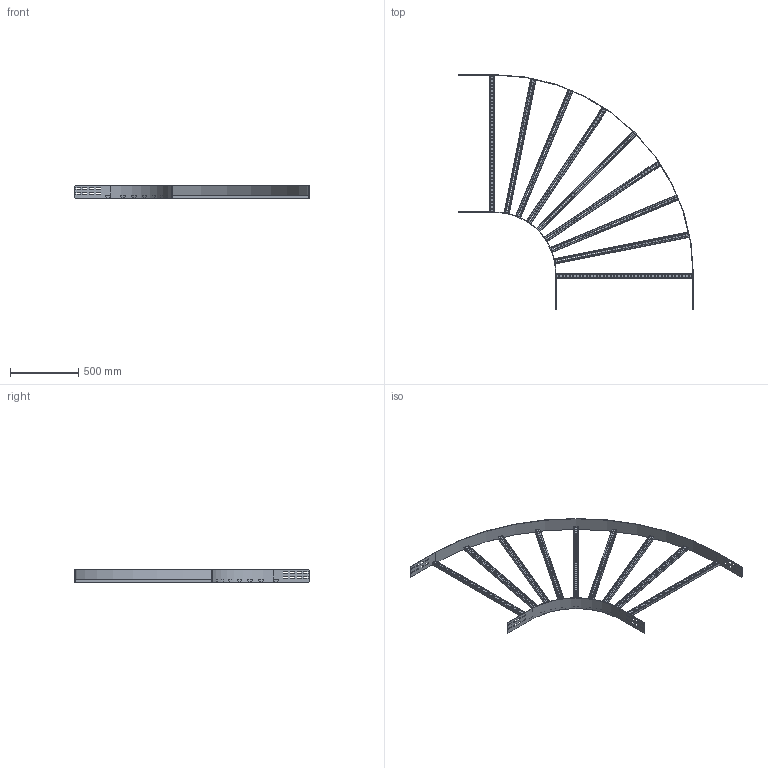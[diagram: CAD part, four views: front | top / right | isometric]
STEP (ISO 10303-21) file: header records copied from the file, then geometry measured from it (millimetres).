
FILE_DESCRIPTION(('Creo Elements/Direct Modeling STEP Export'),'2;1');
FILE_NAME('//pserver/office/EK/ME10-3D/3D-output/WPHB10-100-90-45.stp','2020-12-09T 9:56:05',(''),(''),'PTC Creo Elements/Direct Modeling STEP processor for AP214 (Solid Model)','PTC Creo Elements/Direct Modeling 19.0C 15-Aug-2015 (C) Parametric Technology GmbH','');
FILE_SCHEMA(('AUTOMOTIVE_DESIGN { 1 0 10303 214 1 1 1 1 }'));
Length unit declared in the file: millimetre
Products named in the file (4): WPSPF_100.1.9; WPHBA_100-100; WPBI_100; WPHB10-100-90-45
Assembly tree (11 placements, depth 2):
  WPHB10-100-90-45
    WPSPF_100.1.9  x9
    WPBI_100
    WPHBA_100-100
Bounding box: 1723 x 1723 x 95 mm (x, y, z)
Volume: 2463882.3 mm3; surface area: 2622819.6 mm2
Topology: 11 solids, 11 shells, 1992 faces, 5910 edges, 3940 vertices
Faces by surface type: plane 1088, cylinder 904
Entity records: 12376 total; most frequent: CARTESIAN_POINT 2134, ORIENTED_EDGE 2124, DIRECTION 2003, EDGE_CURVE 1062, VECTOR 849, LINE 849, VERTEX_POINT 708, AXIS2_PLACEMENT_3D 577
